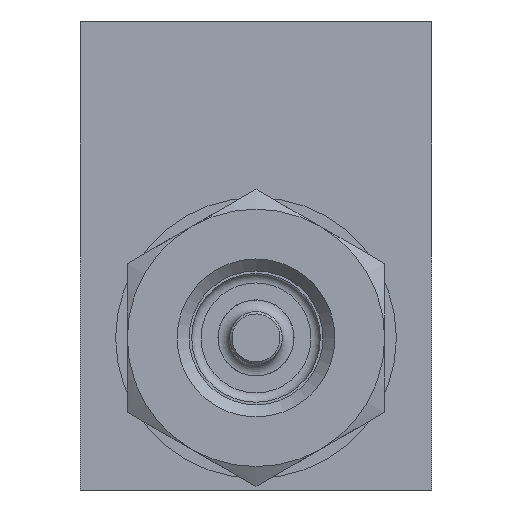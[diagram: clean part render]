
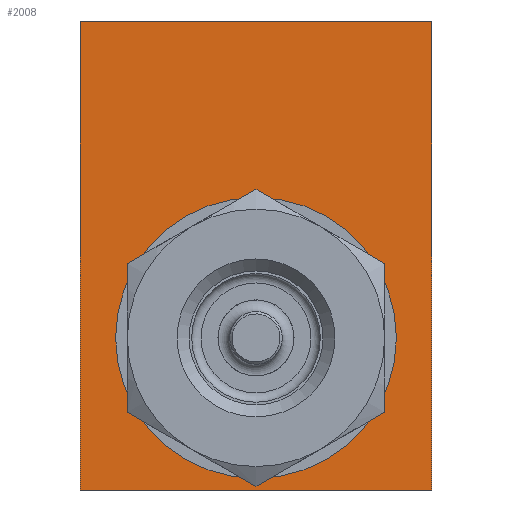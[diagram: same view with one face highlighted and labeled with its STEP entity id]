
A CAD part, left-side view. The second image highlights one B-rep face of the part: STEP entity #2008.
In plain terms, the highlighted planar face has unit normal (-1, 0, 0).
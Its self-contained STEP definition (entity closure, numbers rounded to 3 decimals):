
#77=PLANE('',#2239);
#102=FACE_BOUND('',#356,.T.);
#243=FACE_OUTER_BOUND('',#355,.T.);
#355=EDGE_LOOP('',(#1551,#1552,#1553,#1554));
#356=EDGE_LOOP('',(#1555,#1556));
#455=LINE('',#3676,#527);
#460=LINE('',#3686,#532);
#461=LINE('',#3689,#533);
#462=LINE('',#3690,#534);
#527=VECTOR('',#2678,10.);
#532=VECTOR('',#2687,10.);
#533=VECTOR('',#2690,10.);
#534=VECTOR('',#2691,10.);
#639=CIRCLE('',#2222,12.);
#640=CIRCLE('',#2223,12.);
#827=VERTEX_POINT('',#3639);
#828=VERTEX_POINT('',#3640);
#838=VERTEX_POINT('',#3669);
#841=VERTEX_POINT('',#3674);
#844=VERTEX_POINT('',#3684);
#845=VERTEX_POINT('',#3688);
#1091=EDGE_CURVE('',#827,#828,#639,.T.);
#1092=EDGE_CURVE('',#828,#827,#640,.T.);
#1109=EDGE_CURVE('',#841,#838,#455,.T.);
#1114=EDGE_CURVE('',#838,#844,#460,.T.);
#1115=EDGE_CURVE('',#845,#844,#461,.T.);
#1116=EDGE_CURVE('',#841,#845,#462,.T.);
#1551=ORIENTED_EDGE('',*,*,#1115,.T.);
#1552=ORIENTED_EDGE('',*,*,#1114,.F.);
#1553=ORIENTED_EDGE('',*,*,#1109,.F.);
#1554=ORIENTED_EDGE('',*,*,#1116,.T.);
#1555=ORIENTED_EDGE('',*,*,#1091,.T.);
#1556=ORIENTED_EDGE('',*,*,#1092,.T.);
#2008=ADVANCED_FACE('',(#243,#102),#77,.T.);
#2222=AXIS2_PLACEMENT_3D('',#3641,#2641,#2642);
#2223=AXIS2_PLACEMENT_3D('',#3642,#2643,#2644);
#2239=AXIS2_PLACEMENT_3D('',#3687,#2688,#2689);
#2641=DIRECTION('center_axis',(1.,0.,0.));
#2642=DIRECTION('ref_axis',(0.,0.,
1.));
#2643=DIRECTION('center_axis',(1.,0.,0.));
#2644=DIRECTION('ref_axis',(0.,0.,
1.));
#2678=DIRECTION('',(0.,1.,0.));
#2687=DIRECTION('',(0.,0.,1.));
#2688=DIRECTION('center_axis',(-1.,0.,0.));
#2689=DIRECTION('ref_axis',(0.,0.,
1.));
#2690=DIRECTION('',(0.,1.,0.));
#2691=DIRECTION('',(0.,0.,1.));
#3639=CARTESIAN_POINT('',(-132.335,60.975,5.));
#3640=CARTESIAN_POINT('',(-132.335,60.975,-19.));
#3641=CARTESIAN_POINT('Origin',(-132.335,60.975,-7.));
#3642=CARTESIAN_POINT('Origin',(-132.335,60.975,-7.));
#3669=CARTESIAN_POINT('',(-132.335,75.975,-20.));
#3674=CARTESIAN_POINT('',(-132.335,45.975,-20.));
#3676=CARTESIAN_POINT('',(-132.335,45.975,-20.));
#3684=CARTESIAN_POINT('',(-132.335,75.975,20.));
#3686=CARTESIAN_POINT('',(-132.335,75.975,-20.));
#3687=CARTESIAN_POINT('Origin',(-132.335,45.975,-20.));
#3688=CARTESIAN_POINT('',(-132.335,45.975,20.));
#3689=CARTESIAN_POINT('',(-132.335,45.975,20.));
#3690=CARTESIAN_POINT('',(-132.335,45.975,-20.));
